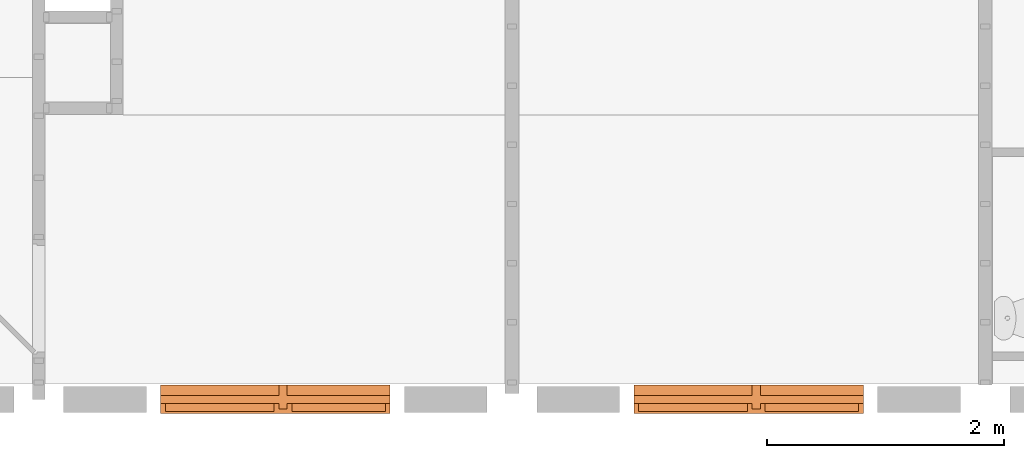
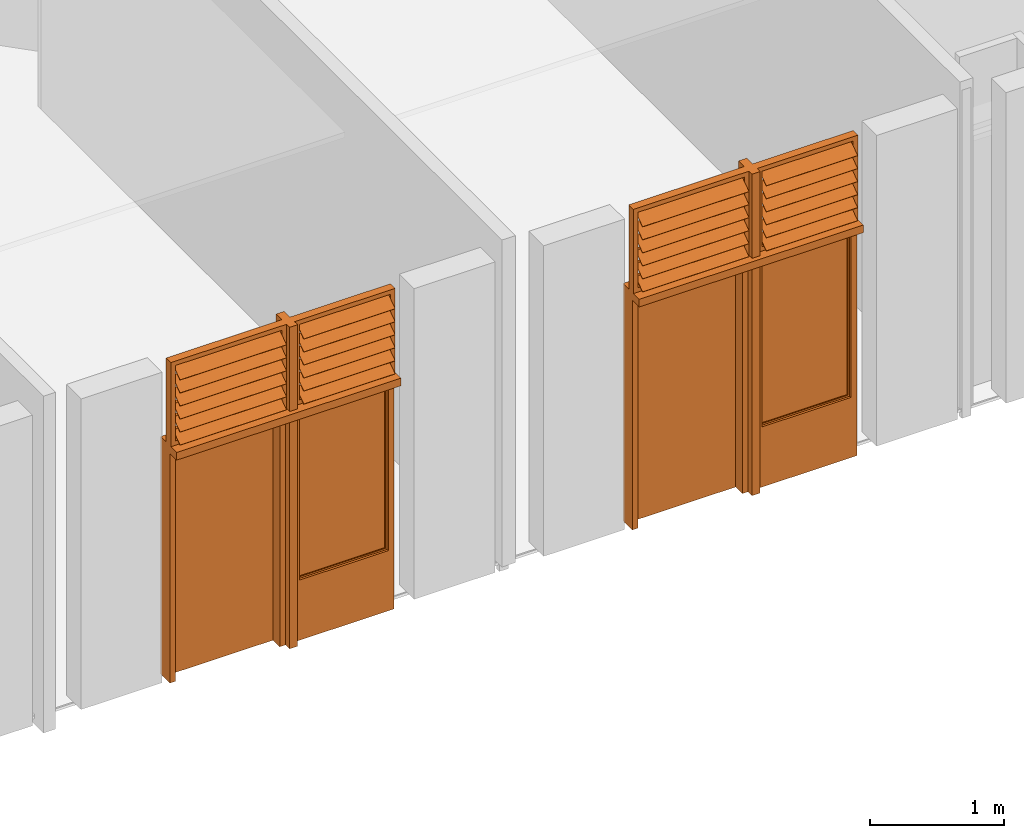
# One storey, part 11 of 15: 2 proxies.
"""IFC2X3 building model written with IfcOpenShell, lengths in metres."""

import ifcopenshell
import ifcopenshell.guid

model = None  # the IFC model being written
_history = None  # IfcOwnerHistory: only IFC2X3 demands one
_inside = {}  # id of a spatial element -> (the spatial element, [elements in it])
_under = {}  # id of a project, library or spatial element -> (it, [spatial elements below it])
_declared = {}  # id of a project -> (the project, [libraries it declares])
_typed = {}  # id of a type object -> (the type object, [elements of that type])
_made_of = {}  # id of a material, layer set ... -> (it, [elements and type objects made of it])


def new_model(schema):
    """Start an empty IFC model of exactly this schema.

    Asked for "IFC4X3", IfcOpenShell would pick the latest addendum, in which some entities
    have other attributes; the version numbers below select the first issue.
    IFC2X3 requires an IfcOwnerHistory on every rooted entity: one is made here for all.
    """
    global model, _history
    if schema == "IFC4X3":
        model = ifcopenshell.file(schema_version=(4, 3, 0, 0))
    else:
        model = ifcopenshell.file(schema=schema)
    _inside.clear()
    _under.clear()
    _declared.clear()
    _typed.clear()
    _made_of.clear()
    _history = None
    if model.schema == "IFC2X3":
        org = make("IfcOrganization", Name="unknown")
        user = make(
            "IfcPersonAndOrganization",
            ThePerson=make("IfcPerson", FamilyName="unknown"),
            TheOrganization=org,
        )
        app = make(
            "IfcApplication",
            ApplicationDeveloper=org,
            Version="unknown",
            ApplicationFullName="unknown",
            ApplicationIdentifier="unknown",
        )
        _history = make(
            "IfcOwnerHistory",
            OwningUser=user,
            OwningApplication=app,
            ChangeAction="ADDED",
            CreationDate=0,
        )
    return model


def make(cls, **values):
    """One entity of the class cls with the attributes given. An attribute that is None is left unset."""
    return model.create_entity(
        cls, **{name: value for name, value in values.items() if value is not None}
    )


def entity(cls, *values):
    """Any entity or typed value of the class cls, its attributes in the order of the schema. None: left unset."""
    e = model.create_entity(cls)
    for i, value in enumerate(values):
        if value is not None:
            e[i] = value
    return e


def rooted(cls, **values):
    """An entity with a GlobalId (a new one), such as an element, a storey or a relation."""
    return make(cls, GlobalId=ifcopenshell.guid.new(), OwnerHistory=_history, **values)


def si_unit(unit_type, name, prefix=None):
    """IfcSIUnit, for example si_unit("LENGTHUNIT", "METRE", prefix="MILLI")."""
    return make("IfcSIUnit", UnitType=unit_type, Prefix=prefix, Name=name)


def converted_unit(unit_type, name, factor, base, dimensions=None, offset=None):
    """IfcConversionBasedUnit, such as the inch: factor (a typed value) times the base unit."""
    return make(
        "IfcConversionBasedUnit"
        if offset is None
        else "IfcConversionBasedUnitWithOffset",
        ConversionOffset=offset,
        Dimensions=None
        if dimensions is None
        else entity("IfcDimensionalExponents", *dimensions),
        UnitType=unit_type,
        Name=name,
        ConversionFactor=make(
            "IfcMeasureWithUnit", ValueComponent=factor, UnitComponent=base
        ),
    )


def derived_unit(unit_type, elements):
    """IfcDerivedUnit: a product of units, each with its exponent."""
    return make(
        "IfcDerivedUnit",
        Elements=[
            make("IfcDerivedUnitElement", Unit=unit, Exponent=power)
            for unit, power in elements
        ],
        UnitType=unit_type,
    )


def assignment(units):
    """IfcUnitAssignment: the units of a project."""
    return None if units is None else make("IfcUnitAssignment", Units=units)


def point(xyz):
    """IfcCartesianPoint."""
    return None if xyz is None else make("IfcCartesianPoint", Coordinates=xyz)


def direction(xyz):
    """IfcDirection."""
    return None if xyz is None else make("IfcDirection", DirectionRatios=xyz)


def frame(location, z_axis=None, x_axis=None):
    """IfcAxis2Placement3D, a coordinate frame: its origin and axes. An axis left out is left unset."""
    return make(
        "IfcAxis2Placement3D",
        Location=point(location),
        Axis=direction(z_axis),
        RefDirection=direction(x_axis),
    )


def origin():
    """The frame at (0, 0, 0) with its axes left unset."""
    return frame((0.0, 0.0, 0.0))


def place(relative_to, where):
    """IfcLocalPlacement: puts the frame where relative to a parent placement (None: the world)."""
    return make(
        "IfcLocalPlacement", PlacementRelTo=relative_to, RelativePlacement=where
    )


def context(
    kind, dimensions, precision=None, world=None, true_north=None, identifier=None
):
    """IfcGeometricRepresentationContext, for example the 3D "Model" context."""
    return make(
        "IfcGeometricRepresentationContext",
        ContextIdentifier=identifier,
        ContextType=kind,
        CoordinateSpaceDimension=dimensions,
        Precision=precision,
        WorldCoordinateSystem=world,
        TrueNorth=true_north,
    )


def subcontext(parent, identifier, kind, view, scale=None):
    """IfcGeometricRepresentationSubContext, for example "Body" below "Model"."""
    return make(
        "IfcGeometricRepresentationSubContext",
        ContextIdentifier=identifier,
        ContextType=kind,
        ParentContext=parent,
        TargetScale=scale,
        TargetView=view,
    )


def project(units=None, contexts=None):
    """IfcProject with its units and contexts."""
    return rooted(
        "IfcProject",
        Name="project",
        RepresentationContexts=contexts,
        UnitsInContext=assignment(units),
    )


def spatial(cls, under=None, at=None, **own):
    """A site, building, storey or space (cls), placed at a placement, below another one or the project."""
    s = rooted(cls, ObjectPlacement=at, **own)
    if under is not None:
        _under.setdefault(under.id(), (under, []))[1].append(s)
    return s


def faces_of(points, faces, orient=None, outer=None):
    """IfcFace entities. A face is a list of loops; a loop is a list of indices into points, from 0.

    orient and outer hold one flag for each loop. By default every Orientation is true, the
    first loop of a face is its IfcFaceOuterBound and the others are IfcFaceBound.
    """
    made = []
    for i, loops in enumerate(faces):
        bounds = []
        for j, loop in enumerate(loops):
            is_outer = j == 0 if outer is None else outer[i][j]
            bounds.append(
                make(
                    "IfcFaceOuterBound" if is_outer else "IfcFaceBound",
                    Bound=make("IfcPolyLoop", Polygon=[points[k] for k in loop]),
                    Orientation=True if orient is None else orient[i][j],
                )
            )
        made.append(make("IfcFace", Bounds=bounds))
    return made


def faceted_brep(points, faces, orient=None, outer=None, voids=None):
    """IfcFacetedBrep: a solid bounded by flat faces; with voids (closed shells), ...WithVoids."""
    shared = [point(p) for p in points]
    hull = make("IfcClosedShell", CfsFaces=faces_of(shared, faces, orient, outer))
    if voids is None:
        return make("IfcFacetedBrep", Outer=hull)
    return make(
        "IfcFacetedBrepWithVoids",
        Outer=hull,
        Voids=[
            make(cls, CfsFaces=faces_of(shared, fs, o, b)) for cls, fs, o, b in voids
        ],
    )


def shape(context_of_items, identifier, shape_type, items):
    """IfcShapeRepresentation: the items that make up one representation, for example the "Body"."""
    return make(
        "IfcShapeRepresentation",
        ContextOfItems=context_of_items,
        RepresentationIdentifier=identifier,
        RepresentationType=shape_type,
        Items=items,
    )


def source(mapping_origin, context_of_items, identifier, shape_type, items):
    """IfcRepresentationMap: a shape defined once, which mapped items show again and again."""
    return make(
        "IfcRepresentationMap",
        MappingOrigin=mapping_origin,
        MappedRepresentation=shape(context_of_items, identifier, shape_type, items),
    )


def transform(
    local_origin,
    x_axis=None,
    y_axis=None,
    z_axis=None,
    scale=None,
    scale2=None,
    scale3=None,
    uniform=True,
):
    """IfcCartesianTransformationOperator3D, or its non-uniform kind. x_axis, y_axis, z_axis: its Axis1, 2, 3."""
    if uniform:
        return make(
            "IfcCartesianTransformationOperator3D",
            Axis1=direction(x_axis),
            Axis2=direction(y_axis),
            LocalOrigin=point(local_origin),
            Scale=scale,
            Axis3=direction(z_axis),
        )
    return make(
        "IfcCartesianTransformationOperator3DnonUniform",
        Axis1=direction(x_axis),
        Axis2=direction(y_axis),
        LocalOrigin=point(local_origin),
        Scale=scale,
        Axis3=direction(z_axis),
        Scale2=scale2,
        Scale3=scale3,
    )


def mapped(mapping_source, mapping_target):
    """IfcMappedItem: shows the shape of a source again, moved by a transform."""
    return make(
        "IfcMappedItem", MappingSource=mapping_source, MappingTarget=mapping_target
    )


def material(Name=None, Category=None):
    """IfcMaterial."""
    return make("IfcMaterial", Name=Name, Category=Category)


def material_list(materials):
    """IfcMaterialList."""
    return make("IfcMaterialList", Materials=materials)


def made_of(thing, what):
    """Note that an element or type object is made of a material, layer set ...; save() writes the relation."""
    if what is not None:
        _made_of.setdefault(what.id(), (what, []))[1].append(thing)
    return thing


def type_object(cls, material=None, **own):
    """A type object (cls), such as IfcWallType, which elements share."""
    return made_of(rooted(cls, **own), material)


def type_shapes(of_type, sources):
    """Give a type object the sources (RepresentationMaps) that its elements show as mapped items."""
    of_type.RepresentationMaps = sources


def element(
    cls,
    number,
    at=None,
    inside=None,
    cuts=None,
    type_object=None,
    material=None,
    context=None,
    identifier="Body",
    shape_type=None,
    held_by="IfcProductDefinitionShape",
    body=None,
    shapes=None,
    **own,
):
    """One element of the class cls, such as IfcWall. Its Tag is "e" and its number.

    at: its placement. inside: the storey or other place that contains it. cuts: it is an
    opening in that element (IfcRelVoidsElement). A single representation is given by context,
    identifier, shape_type and body (its items); several are given by shapes. held_by: the class
    of the entity that holds the representations. save() writes the other relations.
    """
    e = rooted(cls, Tag="e%d" % number, ObjectPlacement=at, **own)
    if body is not None:
        shapes = [shape(context, identifier, shape_type, body)]
    if shapes is not None:
        e.Representation = make(held_by, Representations=shapes)
    if inside is not None:
        _inside.setdefault(inside.id(), (inside, []))[1].append(e)
    if cuts is not None:
        rooted(
            "IfcRelVoidsElement", RelatingBuildingElement=cuts, RelatedOpeningElement=e
        )
    if type_object is not None:
        _typed.setdefault(type_object.id(), (type_object, []))[1].append(e)
    return made_of(e, material)


def aggregate(whole, parts):
    """IfcRelAggregates: a whole, such as a stair, and the parts it consists of."""
    return rooted("IfcRelAggregates", RelatingObject=whole, RelatedObjects=parts)


def save(model, path):
    """Write the relations noted so far, then the file.

    IfcRelAggregates (storeys below a building ...), IfcRelContainedInSpatialStructure (elements
    in a storey), IfcRelDefinesByType, IfcRelAssociatesMaterial and IfcRelDeclares: one each for
    every whole, place, type object, material and project.
    """
    for whole, parts in _under.values():
        aggregate(whole, parts)
    for where, things in _inside.values():
        rooted(
            "IfcRelContainedInSpatialStructure",
            RelatedElements=things,
            RelatingStructure=where,
        )
    for kind, things in _typed.values():
        rooted("IfcRelDefinesByType", RelatedObjects=things, RelatingType=kind)
    for what, things in _made_of.values():
        rooted("IfcRelAssociatesMaterial", RelatedObjects=things, RelatingMaterial=what)
    for by, libraries in _declared.values():
        rooted("IfcRelDeclares", RelatingContext=by, RelatedDefinitions=libraries)
    model.write(path)


model = new_model("IFC2X3")

# Units and contexts
model_context = context("Model", 3, precision=1e-05, world=origin(), true_north=direction((6.12303176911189e-17, 1.0)))
body_context = subcontext(model_context, "Body", "Model", "MODEL_VIEW")
ifc_project = project(units=[si_unit("LENGTHUNIT", "METRE"), si_unit("AREAUNIT", "SQUARE_METRE"), si_unit("VOLUMEUNIT", "CUBIC_METRE"), converted_unit("PLANEANGLEUNIT", "DEGREE", entity("IfcRatioMeasure", 0.0174532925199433), si_unit("PLANEANGLEUNIT", "RADIAN"), dimensions=[0, 0, 0, 0, 0, 0, 0]), si_unit("MASSUNIT", "GRAM", prefix="KILO"), derived_unit("MASSDENSITYUNIT", [(si_unit("MASSUNIT", "GRAM", prefix="KILO"), 1), (si_unit("LENGTHUNIT", "METRE"), -3)]), si_unit("TIMEUNIT", "SECOND"), si_unit("FREQUENCYUNIT", "HERTZ"), si_unit("THERMODYNAMICTEMPERATUREUNIT", "DEGREE_CELSIUS"), derived_unit("THERMALTRANSMITTANCEUNIT", [(si_unit("MASSUNIT", "GRAM", prefix="KILO"), 1), (si_unit("THERMODYNAMICTEMPERATUREUNIT", "KELVIN"), -1), (si_unit("TIMEUNIT", "SECOND"), -3)]), derived_unit("VOLUMETRICFLOWRATEUNIT", [(si_unit("LENGTHUNIT", "METRE"), 3), (si_unit("TIMEUNIT", "SECOND"), -1)]), si_unit("ELECTRICCURRENTUNIT", "AMPERE"), si_unit("ELECTRICVOLTAGEUNIT", "VOLT"), si_unit("POWERUNIT", "WATT"), si_unit("FORCEUNIT", "NEWTON", prefix="KILO"), si_unit("ILLUMINANCEUNIT", "LUX"), si_unit("LUMINOUSFLUXUNIT", "LUMEN"), si_unit("LUMINOUSINTENSITYUNIT", "CANDELA"), derived_unit("USERDEFINED", [(si_unit("MASSUNIT", "GRAM", prefix="KILO"), -1), (si_unit("LENGTHUNIT", "METRE"), -2), (si_unit("TIMEUNIT", "SECOND"), 3), (si_unit("LUMINOUSFLUXUNIT", "LUMEN"), 1)]), derived_unit("LINEARVELOCITYUNIT", [(si_unit("LENGTHUNIT", "METRE"), 1), (si_unit("TIMEUNIT", "SECOND"), -1)]), si_unit("PRESSUREUNIT", "PASCAL"), derived_unit("USERDEFINED", [(si_unit("LENGTHUNIT", "METRE"), -2), (si_unit("MASSUNIT", "GRAM", prefix="KILO"), 1), (si_unit("TIMEUNIT", "SECOND"), -2)])], contexts=[model_context])

# Site, building, storey
site_placement = place(None, origin())
site = spatial("IfcSite", under=ifc_project, at=site_placement, Name="Surface", CompositionType="ELEMENT")
building_placement = place(site_placement, origin())
building = spatial("IfcBuilding", under=site, at=building_placement, Name="ExPREF", CompositionType="ELEMENT")
storey_placement = place(building_placement, frame((0.0, 0.0, 7.83)))
storey = spatial("IfcBuildingStorey", under=building, at=storey_placement, Name="R+2", CompositionType="ELEMENT", Elevation=7.83)

# Proxies
ifc_material_1 = material(Name="AA-Aluminium")
ifc_material_2 = material(Name="AA-vitrage")
ifc_material_3 = material(Name="AA-bois menuiseries")
ifc_material_list_1 = material_list([ifc_material_1, ifc_material_2, ifc_material_3])
ifc_material_list_2 = material_list([ifc_material_1, ifc_material_2, ifc_material_3])
building_element_proxy_type = type_object("IfcBuildingElementProxyType", Name="R+2 porte + fenetre", PredefinedType="NOTDEFINED", material=ifc_material_list_2)
shared_shape = source(origin(), body_context, "Body", "Brep", [
    faceted_brep([(0.139999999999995, -0.113917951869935, 2.87840538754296), (0.139999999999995, -0.11833588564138, 2.88471485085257), (0.139999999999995, -0.101483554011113, 2.89651498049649), (0.139999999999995, -0.0970656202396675, 2.89020551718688), (0.930000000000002, -0.113917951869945, 2.87840538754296), (0.930000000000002, -0.0970656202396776, 2.89020551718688), (0.930000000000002, -0.101483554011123, 2.89651498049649), (0.930000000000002, -0.118335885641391, 2.88471485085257)], [[[0, 1, 2, 3]], [[4, 5, 6, 7]], [[3, 5, 4, 0]], [[2, 6, 5, 3]], [[1, 7, 6, 2]], [[0, 4, 7, 1]]]),
    faceted_brep([(0.139999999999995, -0.114720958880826, 2.87955220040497), (0.139999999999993, -0.220741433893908, 2.80531586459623), (0.139999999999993, -0.223609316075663, 2.80941162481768), (0.139999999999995, -0.117588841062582, 2.88364796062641), (0.930000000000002, -0.114720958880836, 2.87955220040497), (0.930000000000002, -0.117588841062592, 2.88364796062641), (0.93, -0.223609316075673, 2.80941162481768), (0.93, -0.220741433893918, 2.80531586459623)], [[[0, 1, 2, 3]], [[4, 5, 6, 7]], [[3, 5, 4, 0]], [[2, 6, 5, 3]], [[1, 7, 6, 2]], [[0, 4, 7, 1]]]),
    faceted_brep([(-0.930000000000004, -0.113917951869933, 2.87840538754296), (-0.930000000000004, -0.118335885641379, 2.88471485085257), (-0.930000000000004, -0.101483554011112, 2.89651498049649), (-0.930000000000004, -0.097065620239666, 2.89020551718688), (-0.00999999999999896, -0.113917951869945, 2.87840538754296), (-0.00999999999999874, -0.0970656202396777, 2.89020551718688), (-0.0099999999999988, -0.101483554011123, 2.89651498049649), (-0.00999999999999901, -0.118335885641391, 2.88471485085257)], [[[0, 1, 2, 3]], [[4, 5, 6, 7]], [[3, 5, 4, 0]], [[2, 6, 5, 3]], [[1, 7, 6, 2]], [[0, 4, 7, 1]]]),
    faceted_brep([(-0.930000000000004, -0.114720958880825, 2.87955220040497), (-0.930000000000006, -0.220741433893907, 2.80531586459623), (-0.930000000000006, -0.223609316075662, 2.80941162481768), (-0.930000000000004, -0.11758884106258, 2.88364796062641), (-0.00999999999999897, -0.114720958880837, 2.87955220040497), (-0.009999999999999, -0.117588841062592, 2.88364796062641), (-0.0100000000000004, -0.223609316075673, 2.80941162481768), (-0.0100000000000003, -0.220741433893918, 2.80531586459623)], [[[0, 1, 2, 3]], [[4, 5, 6, 7]], [[3, 5, 4, 0]], [[2, 6, 5, 3]], [[1, 7, 6, 2]], [[0, 4, 7, 1]]]),
    faceted_brep([(0.139999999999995, -0.113917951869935, 2.75940538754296), (0.139999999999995, -0.11833588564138, 2.76571485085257), (0.139999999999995, -0.101483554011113, 2.77751498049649), (0.139999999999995, -0.0970656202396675, 2.77120551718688), (0.930000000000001, -0.113917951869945, 2.75940538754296), (0.930000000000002, -0.0970656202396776, 2.77120551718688), (0.930000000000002, -0.101483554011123, 2.77751498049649), (0.930000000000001, -0.118335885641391, 2.76571485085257)], [[[0, 1, 2, 3]], [[4, 5, 6, 7]], [[3, 5, 4, 0]], [[2, 6, 5, 3]], [[1, 7, 6, 2]], [[0, 4, 7, 1]]]),
    faceted_brep([(0.139999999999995, -0.114720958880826, 2.76055220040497), (0.139999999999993, -0.220741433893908, 2.68631586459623), (0.139999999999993, -0.223609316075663, 2.69041162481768), (0.139999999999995, -0.117588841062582, 2.76464796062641), (0.930000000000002, -0.114720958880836, 2.76055220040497), (0.930000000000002, -0.117588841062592, 2.76464796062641), (0.93, -0.223609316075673, 2.69041162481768), (0.93, -0.220741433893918, 2.68631586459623)], [[[0, 1, 2, 3]], [[4, 5, 6, 7]], [[3, 5, 4, 0]], [[2, 6, 5, 3]], [[1, 7, 6, 2]], [[0, 4, 7, 1]]]),
    faceted_brep([(-0.930000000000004, -0.113917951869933, 2.75940538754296), (-0.930000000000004, -0.118335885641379, 2.76571485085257), (-0.930000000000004, -0.101483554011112, 2.77751498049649), (-0.930000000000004, -0.097065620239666, 2.77120551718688), (-0.00999999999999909, -0.113917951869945, 2.75940538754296), (-0.00999999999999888, -0.0970656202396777, 2.77120551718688), (-0.00999999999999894, -0.101483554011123, 2.77751498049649), (-0.00999999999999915, -0.118335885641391, 2.76571485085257)], [[[0, 1, 2, 3]], [[4, 5, 6, 7]], [[3, 5, 4, 0]], [[2, 6, 5, 3]], [[1, 7, 6, 2]], [[0, 4, 7, 1]]]),
    faceted_brep([(-0.930000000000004, -0.114720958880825, 2.76055220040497), (-0.930000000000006, -0.220741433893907, 2.68631586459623), (-0.930000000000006, -0.223609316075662, 2.69041162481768), (-0.930000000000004, -0.11758884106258, 2.76464796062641), (-0.0099999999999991, -0.114720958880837, 2.76055220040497), (-0.00999999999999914, -0.117588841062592, 2.76464796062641), (-0.0100000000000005, -0.223609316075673, 2.69041162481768), (-0.0100000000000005, -0.220741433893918, 2.68631586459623)], [[[0, 1, 2, 3]], [[4, 5, 6, 7]], [[3, 5, 4, 0]], [[2, 6, 5, 3]], [[1, 7, 6, 2]], [[0, 4, 7, 1]]]),
    faceted_brep([(-0.930000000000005, -0.113917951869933, 2.64040538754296), (-0.930000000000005, -0.118335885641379, 2.64671485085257), (-0.930000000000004, -0.101483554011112, 2.65851498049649), (-0.930000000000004, -0.097065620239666, 2.65220551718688), (-0.00999999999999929, -0.113917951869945, 2.64040538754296), (-0.00999999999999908, -0.0970656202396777, 2.65220551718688), (-0.00999999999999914, -0.101483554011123, 2.65851498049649), (-0.00999999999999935, -0.118335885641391, 2.64671485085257)], [[[0, 1, 2, 3]], [[4, 5, 6, 7]], [[3, 5, 4, 0]], [[2, 6, 5, 3]], [[1, 7, 6, 2]], [[0, 4, 7, 1]]]),
    faceted_brep([(-0.930000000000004, -0.114720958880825, 2.64155220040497), (-0.930000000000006, -0.220741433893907, 2.56731586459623), (-0.930000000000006, -0.223609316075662, 2.57141162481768), (-0.930000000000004, -0.11758884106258, 2.64564796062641), (-0.0099999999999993, -0.114720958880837, 2.64155220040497), (-0.00999999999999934, -0.117588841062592, 2.64564796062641), (-0.0100000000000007, -0.223609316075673, 2.57141162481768), (-0.0100000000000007, -0.220741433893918, 2.56731586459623)], [[[0, 1, 2, 3]], [[4, 5, 6, 7]], [[3, 5, 4, 0]], [[2, 6, 5, 3]], [[1, 7, 6, 2]], [[0, 4, 7, 1]]]),
    faceted_brep([(-0.930000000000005, -0.113917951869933, 2.52140538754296), (-0.930000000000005, -0.118335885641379, 2.52771485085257), (-0.930000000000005, -0.101483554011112, 2.53951498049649), (-0.930000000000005, -0.097065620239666, 2.53320551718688), (-0.0099999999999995, -0.113917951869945, 2.52140538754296), (-0.00999999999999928, -0.0970656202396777, 2.53320551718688), (-0.00999999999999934, -0.101483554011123, 2.53951498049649), (-0.00999999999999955, -0.118335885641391, 2.52771485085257)], [[[0, 1, 2, 3]], [[4, 5, 6, 7]], [[3, 5, 4, 0]], [[2, 6, 5, 3]], [[1, 7, 6, 2]], [[0, 4, 7, 1]]]),
    faceted_brep([(-0.930000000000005, -0.114720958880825, 2.52255220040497), (-0.930000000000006, -0.220741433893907, 2.44831586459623), (-0.930000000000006, -0.223609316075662, 2.45241162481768), (-0.930000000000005, -0.11758884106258, 2.52664796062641), (-0.00999999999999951, -0.114720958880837, 2.52255220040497), (-0.00999999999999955, -0.117588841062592, 2.52664796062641), (-0.0100000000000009, -0.223609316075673, 2.45241162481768), (-0.0100000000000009, -0.220741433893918, 2.44831586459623)], [[[0, 1, 2, 3]], [[4, 5, 6, 7]], [[3, 5, 4, 0]], [[2, 6, 5, 3]], [[1, 7, 6, 2]], [[0, 4, 7, 1]]]),
    faceted_brep([(0.139999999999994, -0.113917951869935, 2.64040538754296), (0.139999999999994, -0.11833588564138, 2.64671485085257), (0.139999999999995, -0.101483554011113, 2.65851498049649), (0.139999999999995, -0.0970656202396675, 2.65220551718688), (0.930000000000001, -0.113917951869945, 2.64040538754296), (0.930000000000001, -0.0970656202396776, 2.65220551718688), (0.930000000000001, -0.101483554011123, 2.65851498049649), (0.930000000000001, -0.118335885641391, 2.64671485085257)], [[[0, 1, 2, 3]], [[4, 5, 6, 7]], [[3, 5, 4, 0]], [[2, 6, 5, 3]], [[1, 7, 6, 2]], [[0, 4, 7, 1]]]),
    faceted_brep([(0.139999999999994, -0.114720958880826, 2.64155220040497), (0.139999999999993, -0.220741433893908, 2.56731586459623), (0.139999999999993, -0.223609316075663, 2.57141162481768), (0.139999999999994, -0.117588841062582, 2.64564796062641), (0.930000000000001, -0.114720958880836, 2.64155220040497), (0.930000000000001, -0.117588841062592, 2.64564796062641), (0.93, -0.223609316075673, 2.57141162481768), (0.93, -0.220741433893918, 2.56731586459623)], [[[0, 1, 2, 3]], [[4, 5, 6, 7]], [[3, 5, 4, 0]], [[2, 6, 5, 3]], [[1, 7, 6, 2]], [[0, 4, 7, 1]]]),
    faceted_brep([(0.139999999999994, -0.113917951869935, 2.52140538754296), (0.139999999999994, -0.11833588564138, 2.52771485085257), (0.139999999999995, -0.101483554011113, 2.53951498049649), (0.139999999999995, -0.0970656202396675, 2.53320551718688), (0.930000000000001, -0.113917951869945, 2.52140538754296), (0.930000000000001, -0.0970656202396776, 2.53320551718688), (0.930000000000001, -0.101483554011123, 2.53951498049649), (0.930000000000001, -0.118335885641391, 2.52771485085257)], [[[0, 1, 2, 3]], [[4, 5, 6, 7]], [[3, 5, 4, 0]], [[2, 6, 5, 3]], [[1, 7, 6, 2]], [[0, 4, 7, 1]]]),
    faceted_brep([(0.139999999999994, -0.114720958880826, 2.52255220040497), (0.139999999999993, -0.220741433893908, 2.44831586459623), (0.139999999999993, -0.223609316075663, 2.45241162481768), (0.139999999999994, -0.117588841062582, 2.52664796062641), (0.930000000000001, -0.114720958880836, 2.52255220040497), (0.930000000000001, -0.117588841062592, 2.52664796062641), (0.93, -0.223609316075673, 2.45241162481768), (0.93, -0.220741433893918, 2.44831586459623)], [[[0, 1, 2, 3]], [[4, 5, 6, 7]], [[3, 5, 4, 0]], [[2, 6, 5, 3]], [[1, 7, 6, 2]], [[0, 4, 7, 1]]]),
    faceted_brep([(0.139999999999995, -0.113917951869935, 2.40240538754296), (0.139999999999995, -0.11833588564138, 2.40871485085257), (0.139999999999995, -0.101483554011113, 2.42051498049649), (0.139999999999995, -0.0970656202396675, 2.41420551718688), (0.930000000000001, -0.113917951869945, 2.40240538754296), (0.930000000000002, -0.0970656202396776, 2.41420551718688), (0.930000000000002, -0.101483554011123, 2.42051498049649), (0.930000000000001, -0.118335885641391, 2.40871485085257)], [[[0, 1, 2, 3]], [[4, 5, 6, 7]], [[3, 5, 4, 0]], [[2, 6, 5, 3]], [[1, 7, 6, 2]], [[0, 4, 7, 1]]]),
    faceted_brep([(0.139999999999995, -0.114720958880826, 2.40355220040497), (0.139999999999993, -0.220741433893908, 2.32931586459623), (0.139999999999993, -0.223609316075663, 2.33341162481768), (0.139999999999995, -0.117588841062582, 2.40764796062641), (0.930000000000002, -0.114720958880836, 2.40355220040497), (0.930000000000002, -0.117588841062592, 2.40764796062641), (0.93, -0.223609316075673, 2.33341162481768), (0.93, -0.220741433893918, 2.32931586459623)], [[[0, 1, 2, 3]], [[4, 5, 6, 7]], [[3, 5, 4, 0]], [[2, 6, 5, 3]], [[1, 7, 6, 2]], [[0, 4, 7, 1]]]),
    faceted_brep([(0.139999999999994, -0.113917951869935, 2.28340538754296), (0.139999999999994, -0.11833588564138, 2.28971485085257), (0.139999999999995, -0.101483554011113, 2.30151498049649), (0.139999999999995, -0.0970656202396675, 2.29520551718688), (0.930000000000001, -0.113917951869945, 2.28340538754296), (0.930000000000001, -0.0970656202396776, 2.29520551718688), (0.930000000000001, -0.101483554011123, 2.30151498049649), (0.930000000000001, -0.118335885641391, 2.28971485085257)], [[[0, 1, 2, 3]], [[4, 5, 6, 7]], [[3, 5, 4, 0]], [[2, 6, 5, 3]], [[1, 7, 6, 2]], [[0, 4, 7, 1]]]),
    faceted_brep([(0.139999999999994, -0.114720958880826, 2.28455220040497), (0.139999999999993, -0.220741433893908, 2.21031586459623), (0.139999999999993, -0.223609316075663, 2.21441162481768), (0.139999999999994, -0.117588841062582, 2.28864796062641), (0.930000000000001, -0.114720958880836, 2.28455220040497), (0.930000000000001, -0.117588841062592, 2.28864796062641), (0.93, -0.223609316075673, 2.21441162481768), (0.93, -0.220741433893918, 2.21031586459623)], [[[0, 1, 2, 3]], [[4, 5, 6, 7]], [[3, 5, 4, 0]], [[2, 6, 5, 3]], [[1, 7, 6, 2]], [[0, 4, 7, 1]]]),
    faceted_brep([(-0.930000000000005, -0.113917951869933, 2.40240538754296), (-0.930000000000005, -0.118335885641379, 2.40871485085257), (-0.930000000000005, -0.101483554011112, 2.42051498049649), (-0.930000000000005, -0.097065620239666, 2.41420551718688), (-0.0099999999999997, -0.113917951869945, 2.40240538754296), (-0.00999999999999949, -0.0970656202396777, 2.41420551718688), (-0.00999999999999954, -0.101483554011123, 2.42051498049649), (-0.00999999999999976, -0.118335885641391, 2.40871485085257)], [[[0, 1, 2, 3]], [[4, 5, 6, 7]], [[3, 5, 4, 0]], [[2, 6, 5, 3]], [[1, 7, 6, 2]], [[0, 4, 7, 1]]]),
    faceted_brep([(-0.930000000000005, -0.114720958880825, 2.40355220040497), (-0.930000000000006, -0.220741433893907, 2.32931586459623), (-0.930000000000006, -0.223609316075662, 2.33341162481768), (-0.930000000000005, -0.11758884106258, 2.40764796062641), (-0.00999999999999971, -0.114720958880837, 2.40355220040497), (-0.00999999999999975, -0.117588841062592, 2.40764796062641), (-0.0100000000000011, -0.223609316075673, 2.33341162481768), (-0.0100000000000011, -0.220741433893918, 2.32931586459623)], [[[0, 1, 2, 3]], [[4, 5, 6, 7]], [[3, 5, 4, 0]], [[2, 6, 5, 3]], [[1, 7, 6, 2]], [[0, 4, 7, 1]]]),
    faceted_brep([(-0.930000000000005, -0.113917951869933, 2.28340538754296), (-0.930000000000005, -0.118335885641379, 2.28971485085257), (-0.930000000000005, -0.101483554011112, 2.30151498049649), (-0.930000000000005, -0.097065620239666, 2.29520551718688), (-0.0099999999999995, -0.113917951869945, 2.28340538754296), (-0.00999999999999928, -0.0970656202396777, 2.29520551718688), (-0.00999999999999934, -0.101483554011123, 2.30151498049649), (-0.00999999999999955, -0.118335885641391, 2.28971485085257)], [[[0, 1, 2, 3]], [[4, 5, 6, 7]], [[3, 5, 4, 0]], [[2, 6, 5, 3]], [[1, 7, 6, 2]], [[0, 4, 7, 1]]]),
    faceted_brep([(-0.930000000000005, -0.114720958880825, 2.28455220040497), (-0.930000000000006, -0.220741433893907, 2.21031586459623), (-0.930000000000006, -0.223609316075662, 2.21441162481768), (-0.930000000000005, -0.11758884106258, 2.28864796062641), (-0.00999999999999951, -0.114720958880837, 2.28455220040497), (-0.00999999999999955, -0.117588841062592, 2.28864796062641), (-0.0100000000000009, -0.223609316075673, 2.21441162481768), (-0.0100000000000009, -0.220741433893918, 2.21031586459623)], [[[0, 1, 2, 3]], [[4, 5, 6, 7]], [[3, 5, 4, 0]], [[2, 6, 5, 3]], [[1, 7, 6, 2]], [[0, 4, 7, 1]]]),
    faceted_brep([(0.904999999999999, -0.0900000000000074, 2.03499999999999), (0.904999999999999, -0.0900000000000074, 0.564999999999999), (0.164999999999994, -0.0900000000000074, 0.564999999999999), (0.164999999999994, -0.0900000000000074, 2.03499999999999), (0.904999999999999, -0.110000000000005, 2.03499999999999), (0.164999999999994, -0.110000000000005, 2.03499999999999), (0.164999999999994, -0.110000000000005, 0.564999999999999), (0.904999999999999, -0.110000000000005, 0.564999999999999)], [[[0, 1, 2, 3]], [[4, 5, 6, 7]], [[0, 3, 5, 4]], [[3, 2, 6, 5]], [[2, 1, 7, 6]], [[1, 0, 4, 7]]]),
    faceted_brep([(0.934999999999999, -0.0800000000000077, 2.065), (0.934999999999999, -0.120000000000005, 2.065), (0.934999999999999, -0.120000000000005, 0.534999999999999), (0.934999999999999, -0.0800000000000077, 0.534999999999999), (0.904999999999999, -0.120000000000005, 2.03499999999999), (0.904999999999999, -0.0800000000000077, 2.03499999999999), (0.904999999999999, -0.0800000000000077, 0.564999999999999), (0.904999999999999, -0.120000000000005, 0.564999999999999), (0.134999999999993, -0.120000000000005, 0.534999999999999), (0.134999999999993, -0.0800000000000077, 0.534999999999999), (0.164999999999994, -0.0800000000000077, 0.564999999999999), (0.164999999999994, -0.120000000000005, 0.564999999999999), (0.134999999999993, -0.120000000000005, 2.065), (0.134999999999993, -0.0800000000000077, 2.065), (0.164999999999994, -0.0800000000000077, 2.03499999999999), (0.164999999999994, -0.120000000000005, 2.03499999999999)], [[[0, 1, 2, 3]], [[4, 5, 6, 7]], [[3, 2, 8, 9]], [[7, 6, 10, 11]], [[9, 8, 12, 13]], [[11, 10, 14, 15]], [[7, 11, 15, 4], [1, 12, 8, 2]], [[13, 12, 1, 0]], [[3, 9, 13, 0], [5, 14, 10, 6]], [[15, 14, 5, 4]]], outer=[[True], [True], [True], [True], [True], [True], [False, True], [True], [True, False], [True]]),
    faceted_brep([(0.969999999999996, -0.140000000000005, 0.500000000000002), (0.969999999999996, -0.080000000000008, 0.500000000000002), (0.969999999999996, -0.080000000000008, 2.09999999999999), (0.969999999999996, -0.140000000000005, 2.09999999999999), (0.919999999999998, -0.120000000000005, 0.549999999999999), (0.919999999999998, -0.140000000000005, 0.549999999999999), (0.919999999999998, -0.140000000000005, 2.05), (0.919999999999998, -0.120000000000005, 2.05), (0.934999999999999, -0.0800000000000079, 0.534999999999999), (0.934999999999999, -0.120000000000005, 0.534999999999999), (0.934999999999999, -0.120000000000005, 2.065), (0.934999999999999, -0.0800000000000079, 2.065), (0.0999999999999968, -0.080000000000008, 2.09999999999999), (0.099999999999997, -0.140000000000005, 2.09999999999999), (0.149999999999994, -0.140000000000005, 2.04999999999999), (0.149999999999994, -0.120000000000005, 2.05), (0.134999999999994, -0.120000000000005, 2.065), (0.134999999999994, -0.0800000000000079, 2.065), (0.0999999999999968, -0.080000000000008, 0.500000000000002), (0.099999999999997, -0.140000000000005, 0.500000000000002), (0.149999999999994, -0.140000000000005, 0.549999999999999), (0.149999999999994, -0.120000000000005, 0.549999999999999), (0.134999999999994, -0.120000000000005, 0.534999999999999), (0.134999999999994, -0.0800000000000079, 0.534999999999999)], [[[0, 1, 2, 3]], [[4, 5, 6, 7]], [[8, 9, 10, 11]], [[3, 2, 12, 13]], [[7, 6, 14, 15]], [[11, 10, 16, 17]], [[13, 12, 18, 19]], [[15, 14, 20, 21]], [[17, 16, 22, 23]], [[11, 17, 23, 8], [1, 18, 12, 2]], [[19, 18, 1, 0]], [[3, 13, 19, 0], [5, 20, 14, 6]], [[21, 20, 5, 4]], [[7, 15, 21, 4], [9, 22, 16, 10]], [[23, 22, 9, 8]]], outer=[[True], [True], [True], [True], [True], [True], [True], [True], [True], [False, True], [True], [True, False], [True], [False, True], [True]]),
    faceted_brep([(-0.97, -0.155, 2.17), (0.0299999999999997, -0.155, 2.17), (0.0299999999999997, -0.155, 2.94000000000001), (-0.969999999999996, -0.155, 2.94000000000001), (-0.930000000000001, -0.155, 2.21), (-0.929999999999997, -0.155, 2.90000000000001), (-0.0100000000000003, -0.155, 2.90000000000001), (-0.0100000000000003, -0.155, 2.21), (-0.930000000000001, -0.085000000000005, 2.21), (-0.0100000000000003, -0.085000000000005, 2.21), (-0.0100000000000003, -0.085000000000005, 2.90000000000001), (-0.929999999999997, -0.085000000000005, 2.90000000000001), (-0.97, -0.085000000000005, 2.17), (-0.969999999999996, -0.085000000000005, 2.94000000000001), (0.0299999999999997, -0.085000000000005, 2.94000000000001), (0.0299999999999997, -0.085000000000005, 2.17)], [[[0, 1, 2, 3], [4, 5, 6, 7]], [[8, 9, 10, 11], [12, 13, 14, 15]], [[1, 0, 12, 15]], [[4, 7, 9, 8]], [[0, 3, 13, 12]], [[5, 4, 8, 11]], [[2, 1, 15, 14]], [[7, 6, 10, 9]], [[3, 2, 14, 13]], [[6, 5, 11, 10]]], outer=[[True, False], [False, True], [True], [True], [True], [True], [True], [True], [True], [True]]),
    faceted_brep([(0.0999999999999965, -0.155, 2.16999999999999), (0.969999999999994, -0.155, 2.17), (0.969999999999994, -0.155, 2.94), (0.0999999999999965, -0.155, 2.94), (0.139999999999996, -0.155, 2.20999999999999), (0.139999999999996, -0.155, 2.9), (0.929999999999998, -0.155, 2.9), (0.929999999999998, -0.155, 2.21), (0.139999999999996, -0.085000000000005, 2.20999999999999), (0.929999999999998, -0.085000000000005, 2.21), (0.929999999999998, -0.085000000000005, 2.9), (0.139999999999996, -0.085000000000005, 2.9), (0.0999999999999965, -0.085000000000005, 2.16999999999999), (0.0999999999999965, -0.085000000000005, 2.94), (0.969999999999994, -0.085000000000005, 2.94), (0.969999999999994, -0.085000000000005, 2.17)], [[[0, 1, 2, 3], [4, 5, 6, 7]], [[8, 9, 10, 11], [12, 13, 14, 15]], [[1, 0, 12, 15]], [[2, 1, 15, 14]], [[7, 6, 10, 9]], [[4, 7, 9, 8]], [[0, 3, 13, 12]], [[5, 4, 8, 11]], [[3, 2, 14, 13]], [[6, 5, 11, 10]]], outer=[[True, False], [False, True], [True], [True], [True], [True], [True], [True], [True], [True]]),
    faceted_brep([(0.0999999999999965, -0.2, 2.94), (0.0299999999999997, -0.2, 2.94), (0.0299999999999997, -0.2, 2.17), (0.0999999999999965, -0.2, 2.17), (0.0999999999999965, 0.0, 2.94), (0.0299999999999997, 0.0, 2.94), (0.0999999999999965, 0.0, 2.17), (0.0299999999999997, 0.0, 2.17)], [[[0, 1, 2, 3]], [[1, 0, 4, 5]], [[0, 3, 6, 4]], [[2, 1, 5, 7]], [[3, 2, 7, 6]], [[4, 6, 7, 5]]]),
    faceted_brep([(0.0299999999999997, 0.0, 2.1), (0.0999999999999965, 0.0, 2.1), (0.0999999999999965, 0.0, 0.0), (0.0299999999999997, 0.0, 0.0), (0.0299999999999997, -0.2, 0.0), (0.0299999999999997, -0.2, 2.1), (0.0999999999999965, -0.2, 0.0), (0.0999999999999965, -0.2, 2.1)], [[[0, 1, 2, 3]], [[4, 5, 0, 3]], [[6, 4, 3, 2]], [[7, 6, 2, 1]], [[5, 7, 1, 0]], [[5, 4, 6, 7]]]),
    faceted_brep([(-0.0050000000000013, 0.0, 2.065), (-0.935000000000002, 0.0, 2.065), (-0.935000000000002, -0.0400000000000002, 2.065), (-0.0050000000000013, -0.0400000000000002, 2.065), (-0.0050000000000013, 0.0, 0.0), (-0.0050000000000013, -0.0400000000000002, 0.0), (-0.935000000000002, -0.0400000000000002, 0.0), (-0.935000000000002, 0.0, 0.0)], [[[0, 1, 2, 3]], [[4, 5, 6, 7]], [[1, 0, 4, 7]], [[2, 1, 7, 6]], [[3, 2, 6, 5]], [[0, 3, 5, 4]]]),
    faceted_brep([(-0.970000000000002, -0.14, 0.0), (-0.970000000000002, 0.0, 0.0), (-0.935000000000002, 0.0, 0.0), (-0.935000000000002, -0.0400000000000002, 0.0), (-0.920000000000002, -0.0400000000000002, 0.0), (-0.920000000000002, -0.14, 0.0), (-0.969999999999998, -0.14, 2.1), (-0.969999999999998, 0.0, 2.1), (0.0300000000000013, 0.0, 2.1), (0.0299999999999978, 0.0, 0.0), (-0.00500000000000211, 0.0, 0.0), (-0.00499999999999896, 0.0, 2.065), (-0.934999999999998, 0.0, 2.065), (-0.934999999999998, -0.0400000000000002, 2.065), (-0.919999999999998, -0.14, 2.05), (-0.0199999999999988, -0.140000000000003, 2.05), (-0.0200000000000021, -0.140000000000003, 0.0), (0.0299999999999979, -0.140000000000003, 0.0), (0.0300000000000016, -0.14, 2.1), (-0.004999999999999, -0.0400000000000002, 2.065), (-0.0200000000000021, -0.0400000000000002, 0.0), (-0.00500000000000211, -0.0400000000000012, 0.0), (-0.0199999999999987, -0.0400000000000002, 2.05), (-0.919999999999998, -0.0400000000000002, 2.05)], [[[0, 1, 2, 3, 4, 5]], [[1, 0, 6, 7]], [[2, 1, 7, 8, 9, 10, 11, 12]], [[3, 2, 12, 13]], [[0, 5, 14, 15, 16, 17, 18, 6]], [[7, 6, 18, 8]], [[13, 12, 11, 19]], [[17, 16, 20, 21, 10, 9]], [[4, 3, 13, 19, 21, 20, 22, 23]], [[5, 4, 23, 14]], [[14, 23, 22, 15]], [[8, 18, 17, 9]], [[19, 11, 10, 21]], [[15, 22, 20, 16]]]),
    faceted_brep([(0.970000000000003, -0.140000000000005, 0.0), (0.970000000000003, -0.140000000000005, 0.500000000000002), (0.0999999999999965, -0.140000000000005, 0.500000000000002), (0.0999999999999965, -0.140000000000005, 0.0), (0.970000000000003, 0.0, 0.0), (0.0999999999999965, 0.0, 0.0), (0.0999999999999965, 0.0, 0.500000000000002), (0.970000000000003, 0.0, 0.500000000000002)], [[[0, 1, 2, 3]], [[4, 5, 6, 7]], [[1, 0, 4, 7]], [[2, 1, 7, 6]], [[3, 2, 6, 5]], [[0, 3, 5, 4]]]),
    faceted_brep([(0.97, -0.24, 2.09999999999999), (0.97, -0.24, 2.16999999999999), (-0.970000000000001, -0.24, 2.17), (-0.97, -0.24, 2.1), (0.97, 0.0, 2.09999999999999), (-0.97, 0.0, 2.1), (-0.97, 0.0, 2.17), (0.970000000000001, 0.0, 2.16999999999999)], [[[0, 1, 2, 3]], [[4, 5, 6, 7]], [[1, 0, 4, 7]], [[3, 2, 6, 5]], [[0, 3, 5, 4]], [[2, 1, 7, 6]]]),
])
type_shapes(building_element_proxy_type, [shared_shape])
proxy_1_placement = place(storey_placement, frame((55.4897436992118, -193.239651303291, 0.0)))
element("IfcBuildingElementProxy", 1, at=proxy_1_placement, inside=storey, type_object=building_element_proxy_type, material=ifc_material_list_1, Name="R+2 porte + fenetre:R+2 porte + fenetre", ObjectType="R+2 porte + fenetre", context=body_context, shape_type="MappedRepresentation", body=[
    mapped(shared_shape, transform((0.0, 0.0, 0.0), scale=1.0)),
])
ifc_material_list_3 = material_list([ifc_material_1, ifc_material_2, ifc_material_3])
proxy_2_placement = place(storey_placement, frame((51.4897436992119, -193.239651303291, 0.0)))
element("IfcBuildingElementProxy", 2, at=proxy_2_placement, inside=storey, type_object=building_element_proxy_type, material=ifc_material_list_3, Name="R+2 porte + fenetre:R+2 porte + fenetre", ObjectType="R+2 porte + fenetre", context=body_context, shape_type="MappedRepresentation", body=[
    mapped(shared_shape, transform((0.0, 0.0, 0.0), scale=1.0)),
])

save(model, "model.ifc")
